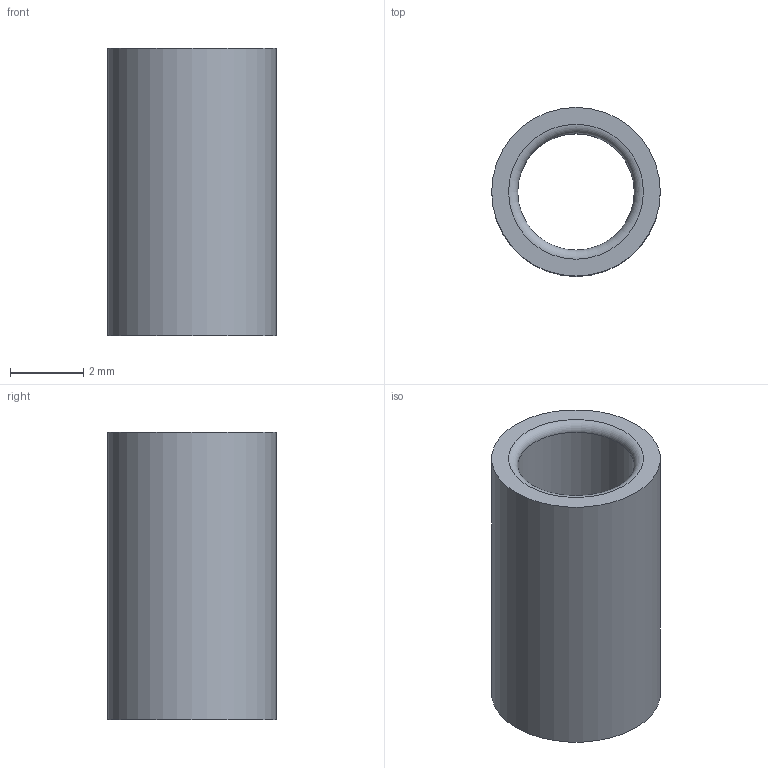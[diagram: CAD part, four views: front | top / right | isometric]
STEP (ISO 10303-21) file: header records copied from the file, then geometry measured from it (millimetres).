
FILE_DESCRIPTION(/* description */ (''),/* implementation_level */ '2;1');
FILE_NAME(/* name */ '//vboxsvr/bigsql-win-testing/CAD/PT111-barrel-bushing v1.step',/* time_stamp */ '2021-05-19T08:05:24-07:00',/* author */ (''),/* organization */ (''),/* preprocessor_version */ 'ST-DEVELOPER v18.1',/* originating_system */ 'Autodesk Translation Framework v10.6.0.1341',/* authorisation */ '');
FILE_SCHEMA (('AUTOMOTIVE_DESIGN { 1 0 10303 214 3 1 1 }'));
Length unit declared in the file: millimetre
Products named in the file (1): PT111-barrel-bushing
Bounding box: 4.6 x 4.6 x 7.85 mm (x, y, z)
Volume: 67.8 mm3; surface area: 207.1 mm2
Topology: 1 solids, 1 shells, 6 faces, 12 edges, 8 vertices
Faces by surface type: torus 2, cylinder 2, plane 2
Full cylindrical faces by diameter (mm): 3.18 x1, 4.6 x1
Entity records: 203 total; most frequent: DIRECTION 36, CARTESIAN_POINT 27, ORIENTED_EDGE 24, AXIS2_PLACEMENT_3D 17, EDGE_CURVE 12, CIRCLE 10, EDGE_LOOP 8, VERTEX_POINT 8
